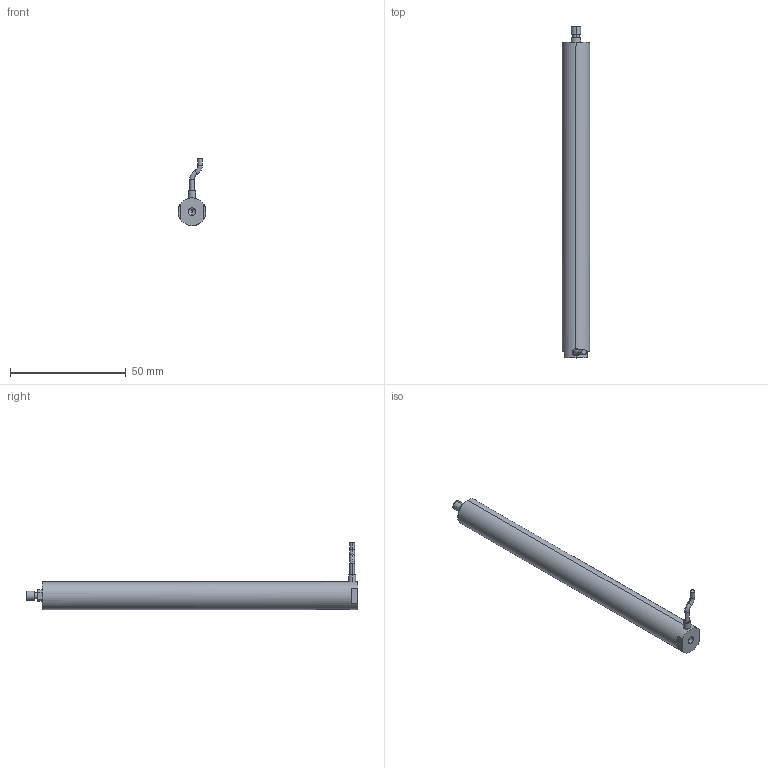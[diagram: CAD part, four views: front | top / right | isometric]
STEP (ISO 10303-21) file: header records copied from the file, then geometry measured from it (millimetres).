
FILE_DESCRIPTION (( 'STEP AP203' ), '1' );
FILE_NAME ('俋蹟恇宒140VS12.STEP', '2020-08-19T06:02:00', ( 'User' ), ( 'china' ), 'SwSTEP 2.0', 'SolidWorks 2016', '' );
FILE_SCHEMA (( 'CONFIG_CONTROL_DESIGN' ));
Length unit declared in the file: millimetre
Products named in the file (1): 俋蹟恇宒140VS12
Bounding box: 12 x 143.6 x 29.08 mm (x, y, z)
Volume: 15529.1 mm3; surface area: 5671.6 mm2
Topology: 1 solids, 1 shells, 943 faces, 2531 edges, 1683 vertices
Faces by surface type: bspline 505, plane 325, cylinder 107, torus 4, cone 2
Entity records: 43381 total; most frequent: CARTESIAN_POINT 24200, ORIENTED_EDGE 5058, EDGE_CURVE 2529, DIRECTION 2033, VERTEX_POINT 1683, B_SPLINE_CURVE_WITH_KNOTS 1662, EDGE_LOOP 1038, ADVANCED_FACE 943
